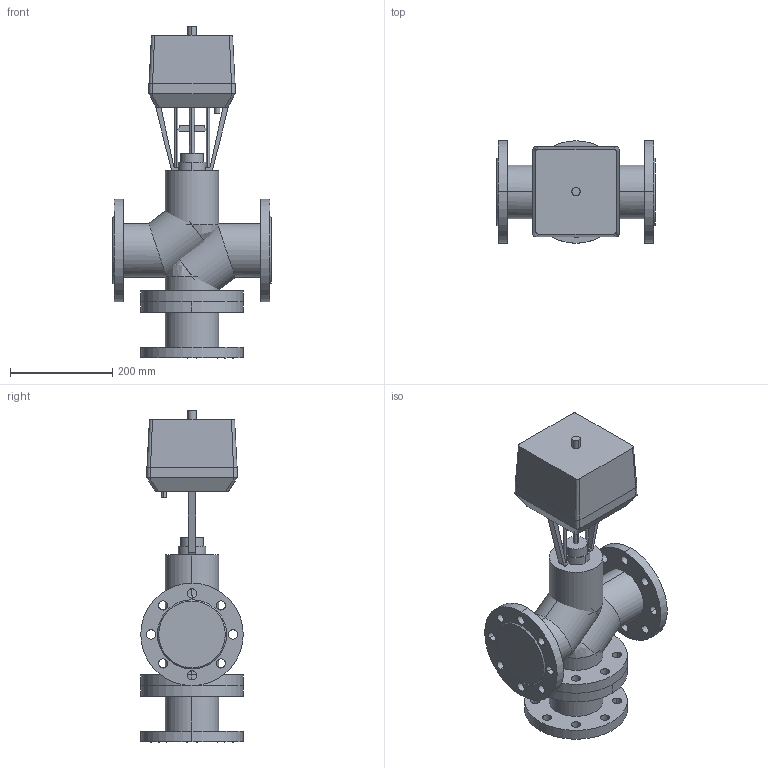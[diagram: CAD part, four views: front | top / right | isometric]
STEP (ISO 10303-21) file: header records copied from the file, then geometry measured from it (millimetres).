
FILE_DESCRIPTION(/* description */ (''),/* implementation_level */ '2;1');
FILE_NAME(/* name */ 'ТРК DN80 PN 2.5 МПа VTM-i 3000H',/* time_stamp */ '2026-07-14T23:24:43+03:00',/* author */ (''),/* organization */ (''),/* preprocessor_version */ 'ST-DEVELOPER v20',/* originating_system */ '',/* authorisation */ '');
FILE_SCHEMA (('AP242_MANAGED_MODEL_BASED_3D_ENGINEERING_MIM_LF { 1 0 10303 442 1 1 4 }'));
Length unit declared in the file: millimetre
Products named in the file (16): TopLevelAssembly; Выдавливание; Модификатор; Модификатор_1; Выдавливание_
1; Выдавливание_
2; Вращение; Выдавливание_
3; Выдавливание_
4; Выдавливание_
5; Выдавливание_
6; Выдавливание_
7; 1600; Переход; Объемная геометрия 
присоединена; Объемная геометрия 
присоединена_1
Assembly tree (15 placements, depth 2):
  TopLevelAssembly
    Выдавливание
    Модификатор
    Модификатор_1
    Выдавливание_
1
    Выдавливание_
2
    Вращение
    Выдавливание_
3
    Выдавливание_
4
    Выдавливание_
5
    Выдавливание_
6
    Выдавливание_
7
    1600
    Переход
    Объемная геометрия 
присоединена
    Объемная геометрия 
присоединена_1
Bounding box: 310 x 200 x 648 mm (x, y, z)
Volume: 12062670.1 mm3; surface area: 1034935.2 mm2
Topology: 23 solids, 23 shells, 235 faces, 567 edges, 374 vertices
Faces by surface type: cylinder 136, plane 83, bspline 12, cone 4
Entity records: 7907 total; most frequent: CARTESIAN_POINT 1479, DIRECTION 1378, ORIENTED_EDGE 1118, AXIS2_PLACEMENT_3D 565, EDGE_CURVE 559, VERTEX_POINT 374, EDGE_LOOP 329, CIRCLE 303
